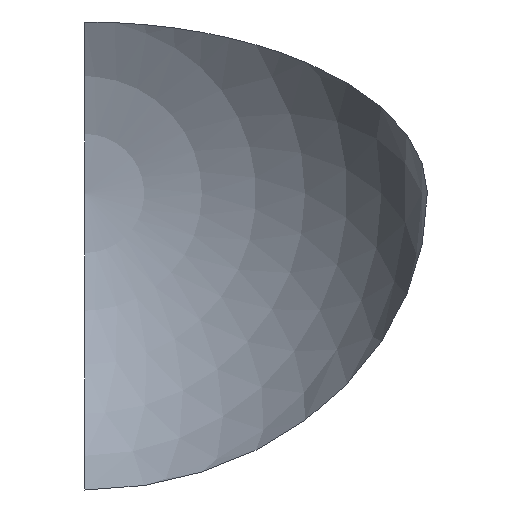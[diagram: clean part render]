
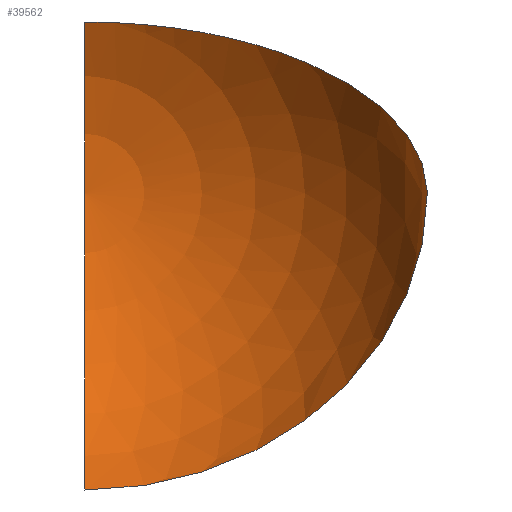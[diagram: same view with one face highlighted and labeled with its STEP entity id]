
A CAD part, top view. The second image highlights one B-rep face of the part: STEP entity #39562.
In plain terms, the highlighted spherical face has radius 8 mm.
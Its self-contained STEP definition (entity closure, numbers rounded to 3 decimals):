
#34130=AXIS2_PLACEMENT_3D('',#604784,#470489,#507949);
#39562=ADVANCED_FACE('',(#689089),#423103,.F.);
#81433=DIRECTION('',(0.,1.,0.));
#110781=EDGE_CURVE('',#518968,#1489830,#638686,.T.);
#132493=CIRCLE('',#1689848,8.);
#149311=EDGE_CURVE('',#1105788,#1489830,#132493,.T.);
#239866=DIRECTION('',(0.,0.,1.));
#396263=ORIENTED_EDGE('',*,*,#149311,.T.);
#414389=AXIS2_PLACEMENT_3D('',#865280,#81433,#1511198);
#423103=SPHERICAL_SURFACE('',#414389,8.);
#470489=DIRECTION('',(-0.,0.5,-0.866));
#507949=DIRECTION('',(0.,-0.866,-0.5));
#518968=VERTEX_POINT('',#1086502);
#604784=CARTESIAN_POINT('',(-886.,139.062,2216.531));
#638686=CIRCLE('',#34130,8.);
#651602=CARTESIAN_POINT('',(-886.,139.062,2216.531));
#689089=FACE_OUTER_BOUND('',#758322,.T.);
#691222=AXIS2_PLACEMENT_3D('',#651602,#1160821,#239866);
#758322=EDGE_LOOP('',(#1680305,#396263,#899156));
#794418=CIRCLE('',#691222,8.);
#865280=CARTESIAN_POINT('',(-886.,139.062,2216.531));
#899156=ORIENTED_EDGE('',*,*,#110781,.F.);
#1086502=CARTESIAN_POINT('',(-886.,145.99,2220.531));
#1105788=VERTEX_POINT('',#1468465);
#1160821=DIRECTION('',(-1.,0.,0.));
#1173970=CARTESIAN_POINT('',(-878.,139.062,2216.531));
#1426202=CARTESIAN_POINT('',(-886.,139.062,2216.531));
#1437457=DIRECTION('',(0.,0.5,-0.866));
#1468465=CARTESIAN_POINT('',(-886.,143.062,2209.602));
#1489830=VERTEX_POINT('',#1173970);
#1511198=DIRECTION('',(1.,0.,0.));
#1563308=DIRECTION('',(0.,-0.866,-0.5));
#1620564=EDGE_CURVE('',#518968,#1105788,#794418,.T.);
#1680305=ORIENTED_EDGE('',*,*,#1620564,.T.);
#1689848=AXIS2_PLACEMENT_3D('',#1426202,#1563308,#1437457);
